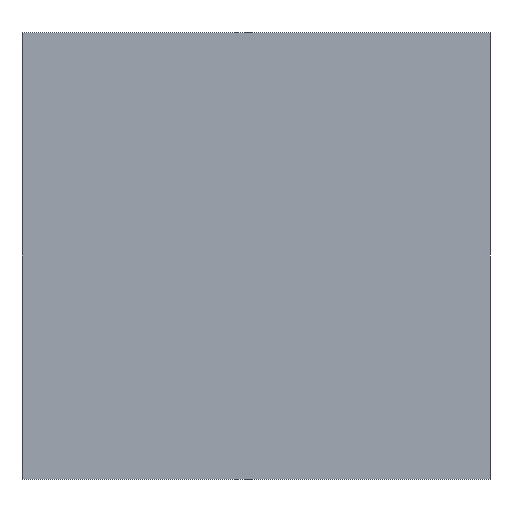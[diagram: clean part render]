
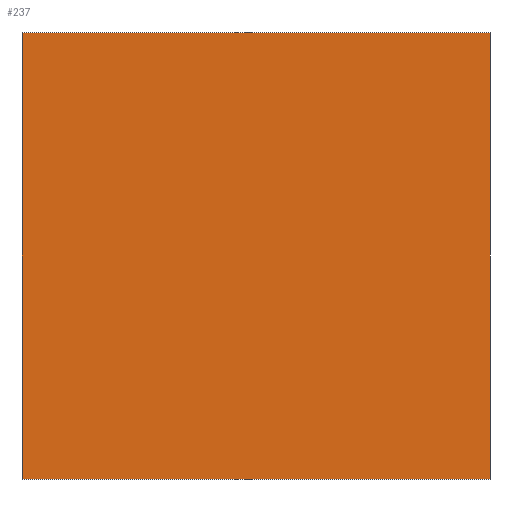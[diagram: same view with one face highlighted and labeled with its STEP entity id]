
A CAD part, front view. The second image highlights one B-rep face of the part: STEP entity #237.
In plain terms, the highlighted planar face has unit normal (0, -1, 0).
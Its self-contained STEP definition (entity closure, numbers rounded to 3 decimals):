
#21 = EDGE_CURVE('',#22,#24,#26,.T.);
#22 = VERTEX_POINT('',#23);
#23 = CARTESIAN_POINT('',(30.,-17.5,-14.3));
#24 = VERTEX_POINT('',#25);
#25 = CARTESIAN_POINT('',(30.,-17.5,14.3));
#26 = SURFACE_CURVE('',#27,(#31,#43),.PCURVE_S1.);
#27 = LINE('',#28,#29);
#28 = CARTESIAN_POINT('',(30.,-17.5,-14.3));
#29 = VECTOR('',#30,1.);
#30 = DIRECTION('',(0.,0.,1.));
#31 = PCURVE('',#32,#37);
#32 = PLANE('',#33);
#33 = AXIS2_PLACEMENT_3D('',#34,#35,#36);
#34 = CARTESIAN_POINT('',(30.,-17.5,-14.3));
#35 = DIRECTION('',(1.,0.,0.));
#36 = DIRECTION('',(0.,0.,1.));
#37 = DEFINITIONAL_REPRESENTATION('',(#38),#42);
#38 = LINE('',#39,#40);
#39 = CARTESIAN_POINT('',(0.,0.));
#40 = VECTOR('',#41,1.);
#41 = DIRECTION('',(1.,0.));
#42 = ( GEOMETRIC_REPRESENTATION_CONTEXT(2) 
PARAMETRIC_REPRESENTATION_CONTEXT() REPRESENTATION_CONTEXT('2D SPACE',''
  ) );
#43 = PCURVE('',#44,#49);
#44 = PLANE('',#45);
#45 = AXIS2_PLACEMENT_3D('',#46,#47,#48);
#46 = CARTESIAN_POINT('',(30.,-17.5,-14.3));
#47 = DIRECTION('',(0.,1.,0.));
#48 = DIRECTION('',(0.,0.,1.));
#49 = DEFINITIONAL_REPRESENTATION('',(#50),#54);
#50 = LINE('',#51,#52);
#51 = CARTESIAN_POINT('',(0.,0.));
#52 = VECTOR('',#53,1.);
#53 = DIRECTION('',(1.,0.));
#54 = ( GEOMETRIC_REPRESENTATION_CONTEXT(2) 
PARAMETRIC_REPRESENTATION_CONTEXT() REPRESENTATION_CONTEXT('2D SPACE',''
  ) );
#72 = PLANE('',#73);
#73 = AXIS2_PLACEMENT_3D('',#74,#75,#76);
#74 = CARTESIAN_POINT('',(30.,-17.5,-14.3));
#75 = DIRECTION('',(0.,0.,1.));
#76 = DIRECTION('',(1.,0.,0.));
#126 = PLANE('',#127);
#127 = AXIS2_PLACEMENT_3D('',#128,#129,#130);
#128 = CARTESIAN_POINT('',(30.,-17.5,14.3));
#129 = DIRECTION('',(0.,0.,1.));
#130 = DIRECTION('',(1.,0.,0.));
#141 = EDGE_CURVE('',#142,#144,#146,.T.);
#142 = VERTEX_POINT('',#143);
#143 = CARTESIAN_POINT('',(60.,-17.5,-14.3));
#144 = VERTEX_POINT('',#145);
#145 = CARTESIAN_POINT('',(60.,-17.5,14.3));
#146 = SURFACE_CURVE('',#147,(#151,#163),.PCURVE_S1.);
#147 = LINE('',#148,#149);
#148 = CARTESIAN_POINT('',(60.,-17.5,-14.3));
#149 = VECTOR('',#150,1.);
#150 = DIRECTION('',(0.,0.,1.));
#151 = PCURVE('',#152,#157);
#152 = PLANE('',#153);
#153 = AXIS2_PLACEMENT_3D('',#154,#155,#156);
#154 = CARTESIAN_POINT('',(60.,-17.5,-14.3));
#155 = DIRECTION('',(1.,0.,0.));
#156 = DIRECTION('',(0.,0.,1.));
#157 = DEFINITIONAL_REPRESENTATION('',(#158),#162);
#158 = LINE('',#159,#160);
#159 = CARTESIAN_POINT('',(0.,0.));
#160 = VECTOR('',#161,1.);
#161 = DIRECTION('',(1.,0.));
#162 = ( GEOMETRIC_REPRESENTATION_CONTEXT(2) 
PARAMETRIC_REPRESENTATION_CONTEXT() REPRESENTATION_CONTEXT('2D SPACE',''
  ) );
#163 = PCURVE('',#44,#164);
#164 = DEFINITIONAL_REPRESENTATION('',(#165),#169);
#165 = LINE('',#166,#167);
#166 = CARTESIAN_POINT('',(0.,30.));
#167 = VECTOR('',#168,1.);
#168 = DIRECTION('',(1.,0.));
#169 = ( GEOMETRIC_REPRESENTATION_CONTEXT(2) 
PARAMETRIC_REPRESENTATION_CONTEXT() REPRESENTATION_CONTEXT('2D SPACE',''
  ) );
#237 = ADVANCED_FACE('',(#238),#44,.F.);
#238 = FACE_BOUND('',#239,.F.);
#239 = EDGE_LOOP('',(#240,#261,#262,#283));
#240 = ORIENTED_EDGE('',*,*,#241,.F.);
#241 = EDGE_CURVE('',#22,#142,#242,.T.);
#242 = SURFACE_CURVE('',#243,(#247,#254),.PCURVE_S1.);
#243 = LINE('',#244,#245);
#244 = CARTESIAN_POINT('',(30.,-17.5,-14.3));
#245 = VECTOR('',#246,1.);
#246 = DIRECTION('',(1.,0.,0.));
#247 = PCURVE('',#44,#248);
#248 = DEFINITIONAL_REPRESENTATION('',(#249),#253);
#249 = LINE('',#250,#251);
#250 = CARTESIAN_POINT('',(0.,0.));
#251 = VECTOR('',#252,1.);
#252 = DIRECTION('',(0.,1.));
#253 = ( GEOMETRIC_REPRESENTATION_CONTEXT(2) 
PARAMETRIC_REPRESENTATION_CONTEXT() REPRESENTATION_CONTEXT('2D SPACE',''
  ) );
#254 = PCURVE('',#72,#255);
#255 = DEFINITIONAL_REPRESENTATION('',(#256),#260);
#256 = LINE('',#257,#258);
#257 = CARTESIAN_POINT('',(0.,0.));
#258 = VECTOR('',#259,1.);
#259 = DIRECTION('',(1.,0.));
#260 = ( GEOMETRIC_REPRESENTATION_CONTEXT(2) 
PARAMETRIC_REPRESENTATION_CONTEXT() REPRESENTATION_CONTEXT('2D SPACE',''
  ) );
#261 = ORIENTED_EDGE('',*,*,#21,.T.);
#262 = ORIENTED_EDGE('',*,*,#263,.T.);
#263 = EDGE_CURVE('',#24,#144,#264,.T.);
#264 = SURFACE_CURVE('',#265,(#269,#276),.PCURVE_S1.);
#265 = LINE('',#266,#267);
#266 = CARTESIAN_POINT('',(30.,-17.5,14.3));
#267 = VECTOR('',#268,1.);
#268 = DIRECTION('',(1.,0.,0.));
#269 = PCURVE('',#44,#270);
#270 = DEFINITIONAL_REPRESENTATION('',(#271),#275);
#271 = LINE('',#272,#273);
#272 = CARTESIAN_POINT('',(28.6,0.));
#273 = VECTOR('',#274,1.);
#274 = DIRECTION('',(0.,1.));
#275 = ( GEOMETRIC_REPRESENTATION_CONTEXT(2) 
PARAMETRIC_REPRESENTATION_CONTEXT() REPRESENTATION_CONTEXT('2D SPACE',''
  ) );
#276 = PCURVE('',#126,#277);
#277 = DEFINITIONAL_REPRESENTATION('',(#278),#282);
#278 = LINE('',#279,#280);
#279 = CARTESIAN_POINT('',(0.,0.));
#280 = VECTOR('',#281,1.);
#281 = DIRECTION('',(1.,0.));
#282 = ( GEOMETRIC_REPRESENTATION_CONTEXT(2) 
PARAMETRIC_REPRESENTATION_CONTEXT() REPRESENTATION_CONTEXT('2D SPACE',''
  ) );
#283 = ORIENTED_EDGE('',*,*,#141,.F.);
